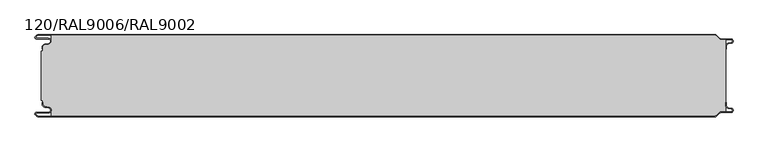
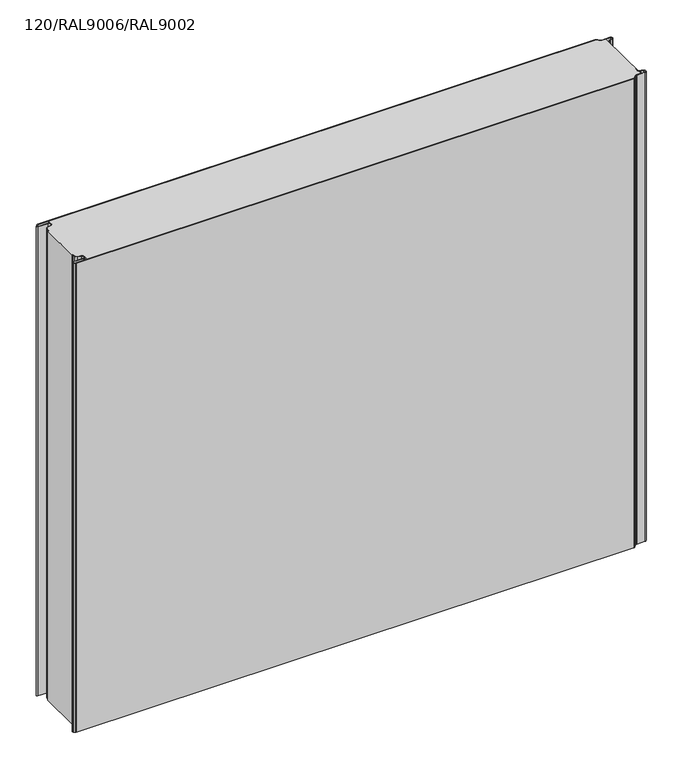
"""IFC4 building model written with IfcOpenShell, lengths in millimetres: plate geometry, TR_C_V_FTV_Panel : 120/RAL9006/RAL9002."""

from ifc_helpers import new_model, si_unit, point, frame_2d, origin, origin_with_axes, place, context, project, spatial, polyline, circle_curve, trimmed, segment, composite_curve, outline, extrude, source, transform, mapped, element, save


def plate_120_ral9006_ral9002_37b8b317(model_context):
    return source(origin(), model_context, "Body", "SweptSolid", [
        extrude(outline(composite_curve([segment(polyline([(499.8000012, -103.1130328), (499.8000012, -99.0), (500.6000012, -99.0), (500.6000012, -103.1130328)]), True, "CONTINUOUS"), segment(trimmed(circle_curve(frame_2d((504.3500012, -103.1130328)), 3.75), [point((500.6000012, -103.1130328))], [point((503.6988205, -106.8060618))], True, "CARTESIAN"), True, "CONTINUOUS"), segment(polyline([(503.6988205, -106.8060618), (507.9143577, -107.5493748)]), True, "CONTINUOUS"), segment(trimmed(circle_curve(frame_2d((507.3500012, -110.75)), 3.25), [point((507.9143577, -107.5493748))], [point((507.3500012, -114.0))], False, "CARTESIAN"), True, "CONTINUOUS"), segment(polyline([(507.3500012, -114.0), (492.6000012, -114.0)]), True, "CONTINUOUS"), segment(trimmed(circle_curve(frame_2d((492.6000012, -116.5)), 2.5), [point((492.6000012, -114.0))], [point((490.8322342, -114.732233))], True, "CARTESIAN"), True, "CONTINUOUS"), segment(polyline([(490.8322342, -114.732233), (486.4431469, -119.1213203)]), True, "CONTINUOUS"), segment(trimmed(circle_curve(frame_2d((484.3218266, -117.0)), 3.0), [point((486.4431469, -119.1213203))], [point((484.3218266, -120.0))], False, "CARTESIAN"), True, "CONTINUOUS"), segment(polyline([(484.3218266, -120.0), (-505.018628, -120.0)]), True, "CONTINUOUS"), segment(trimmed(circle_curve(frame_2d((-505.018628, -117.25)), 2.75), [point((-505.018628, -120.0))], [point((-506.9631716, -119.1945436))], False, "CARTESIAN"), True, "CONTINUOUS"), segment(polyline([(-506.9631716, -119.1945436), (-508.8288571, -117.3288582)]), True, "CONTINUOUS"), segment(trimmed(circle_curve(frame_2d((-507.4499988, -115.95)), 1.95), [point((-508.8288571, -117.3288582))], [point((-507.4499988, -114.0))], False, "CARTESIAN"), True, "CONTINUOUS"), segment(polyline([(-507.4499988, -114.0), (-489.8499988, -114.0)]), True, "CONTINUOUS"), segment(trimmed(circle_curve(frame_2d((-489.8499988, -110.55)), 3.45), [point((-489.8499988, -114.0))], [point((-489.2509126, -107.1524133))], True, "CARTESIAN"), True, "CONTINUOUS"), segment(polyline([(-489.2509126, -107.1524133), (-495.3011795, -106.085588)]), True, "CONTINUOUS"), segment(trimmed(circle_curve(frame_2d((-494.6499988, -102.3925589)), 3.75), [point((-495.3011795, -106.085588))], [point((-498.3999988, -102.3925589))], False, "CARTESIAN"), True, "CONTINUOUS"), segment(polyline([(-498.3999988, -102.3925589), (-498.3999988, -99.0), (-497.5999988, -99.0), (-497.5999988, -102.3925589)]), True, "CONTINUOUS"), segment(trimmed(circle_curve(frame_2d((-494.6499988, -102.3925589)), 2.95), [point((-497.5999988, -102.3925589))], [point((-495.162261, -105.2977418))], True, "CARTESIAN"), True, "CONTINUOUS"), segment(polyline([(-495.162261, -105.2977418), (-489.1119941, -106.364567)]), True, "CONTINUOUS"), segment(trimmed(circle_curve(frame_2d((-489.8499988, -110.55)), 4.25), [point((-489.1119941, -106.364567))], [point((-489.8499988, -114.8))], False, "CARTESIAN"), True, "CONTINUOUS"), segment(polyline([(-489.8499988, -114.8), (-507.4499988, -114.8)]), True, "CONTINUOUS"), segment(trimmed(circle_curve(frame_2d((-507.4499988, -115.95)), 1.15), [point((-507.4499988, -114.8))], [point((-508.2631716, -116.7631728))], True, "CARTESIAN"), True, "CONTINUOUS"), segment(polyline([(-508.2631716, -116.7631728), (-506.3974862, -118.6288582)]), True, "CONTINUOUS"), segment(trimmed(circle_curve(frame_2d((-505.018628, -117.25)), 1.95), [point((-506.3974862, -118.6288582))], [point((-505.018628, -119.2))], True, "CARTESIAN"), True, "CONTINUOUS"), segment(polyline([(-505.018628, -119.2), (484.3218266, -119.2)]), True, "CONTINUOUS"), segment(trimmed(circle_curve(frame_2d((484.3218266, -117.0)), 2.2), [point((484.3218266, -119.2))], [point((485.8774615, -118.5556349))], True, "CARTESIAN"), True, "CONTINUOUS"), segment(polyline([(485.8774615, -118.5556349), (490.2665488, -114.1665476)]), True, "CONTINUOUS"), segment(trimmed(circle_curve(frame_2d((492.6000012, -116.5)), 3.3), [point((490.2665488, -114.1665476))], [point((492.6000012, -113.2))], False, "CARTESIAN"), True, "CONTINUOUS"), segment(polyline([(492.6000012, -113.2), (507.3500012, -113.2)]), True, "CONTINUOUS"), segment(trimmed(circle_curve(frame_2d((507.3500012, -110.75)), 2.45), [point((507.3500012, -113.2))], [point((507.7754392, -108.337221))], True, "CARTESIAN"), True, "CONTINUOUS"), segment(polyline([(507.7754392, -108.337221), (503.559902, -107.5939081)]), True, "CONTINUOUS"), segment(trimmed(circle_curve(frame_2d((504.3500012, -103.1130328)), 4.55), [point((503.559902, -107.5939081))], [point((499.8000012, -103.1130328))], False, "CARTESIAN"), True, "CONTINUOUS")], self_intersect=False)), origin_with_axes(), (0.0, 0.0, 1.0), 880.0),
        extrude(outline(composite_curve([segment(polyline([(-499.9999988, -23.7), (-497.5999988, -23.7), (-497.5999988, -17.6074411)]), True, "CONTINUOUS"), segment(trimmed(circle_curve(frame_2d((-494.6499988, -17.6074411)), 2.95), [point((-497.5999988, -17.6074411))], [point((-495.162261, -14.7022582))], False, "CARTESIAN"), True, "CONTINUOUS"), segment(polyline([(-495.162261, -14.7022582), (-489.1119941, -13.635433)]), True, "CONTINUOUS"), segment(trimmed(circle_curve(frame_2d((-489.8499988, -9.45)), 4.25), [point((-489.1119941, -13.635433))], [point((-485.5999988, -9.45))], True, "CARTESIAN"), True, "CONTINUOUS"), segment(polyline([(-485.5999988, -9.45), (-485.5999988, -0.8), (484.3218266, -0.8)]), True, "CONTINUOUS"), segment(trimmed(circle_curve(frame_2d((484.3218266, -3.0)), 2.2), [point((484.3218266, -0.8))], [point((485.8774615, -1.4443651))], False, "CARTESIAN"), True, "CONTINUOUS"), segment(polyline([(485.8774615, -1.4443651), (490.2665488, -5.8334524)]), True, "CONTINUOUS"), segment(trimmed(circle_curve(frame_2d((492.6000012, -3.5)), 3.3), [point((490.2665488, -5.8334524))], [point((492.6000012, -6.8))], True, "CARTESIAN"), True, "CONTINUOUS"), segment(polyline([(492.6000012, -6.8), (500.0, -6.8), (500.0, -113.2), (492.6000012, -113.2)]), True, "CONTINUOUS"), segment(trimmed(circle_curve(frame_2d((492.6000012, -116.5)), 3.3), [point((492.6000012, -113.2))], [point((490.2665488, -114.1665476))], True, "CARTESIAN"), True, "CONTINUOUS"), segment(polyline([(490.2665488, -114.1665476), (485.8774615, -118.5556349)]), True, "CONTINUOUS"), segment(trimmed(circle_curve(frame_2d((484.3218266, -117.0)), 2.2), [point((485.8774615, -118.5556349))], [point((484.3218266, -119.2))], False, "CARTESIAN"), True, "CONTINUOUS"), segment(polyline([(484.3218266, -119.2), (-485.5999988, -119.2), (-485.5999988, -110.55)]), True, "CONTINUOUS"), segment(trimmed(circle_curve(frame_2d((-489.8499988, -110.55)), 4.25), [point((-485.5999988, -110.55))], [point((-489.1119941, -106.364567))], True, "CARTESIAN"), True, "CONTINUOUS"), segment(polyline([(-489.1119941, -106.364567), (-495.162261, -105.2977418)]), True, "CONTINUOUS"), segment(trimmed(circle_curve(frame_2d((-494.6499988, -102.3925589)), 2.95), [point((-495.162261, -105.2977418))], [point((-497.5999988, -102.3925589))], False, "CARTESIAN"), True, "CONTINUOUS"), segment(polyline([(-497.5999988, -102.3925589), (-497.5999988, -96.3), (-499.9999988, -96.3), (-499.9999988, -23.7)]), True, "CONTINUOUS")], self_intersect=False)), origin_with_axes(), (0.0, 0.0, 1.0), 880.0),
        extrude(outline(composite_curve([segment(trimmed(circle_curve(frame_2d((504.3500012, -16.8869672)), 4.55), [point((499.8000012, -16.8869672))], [point((503.559902, -12.4060919))], False, "CARTESIAN"), True, "CONTINUOUS"), segment(polyline([(503.559902, -12.4060919), (507.7754392, -11.662779)]), True, "CONTINUOUS"), segment(trimmed(circle_curve(frame_2d((507.3500012, -9.25)), 2.45), [point((507.7754392, -11.662779))], [point((507.3500012, -6.8))], True, "CARTESIAN"), True, "CONTINUOUS"), segment(polyline([(507.3500012, -6.8), (492.6000012, -6.8)]), True, "CONTINUOUS"), segment(trimmed(circle_curve(frame_2d((492.6000012, -3.5)), 3.3), [point((492.6000012, -6.8))], [point((490.2665488, -5.8334524))], False, "CARTESIAN"), True, "CONTINUOUS"), segment(polyline([(490.2665488, -5.8334524), (485.8774615, -1.4443651)]), True, "CONTINUOUS"), segment(trimmed(circle_curve(frame_2d((484.3218266, -3.0)), 2.2), [point((485.8774615, -1.4443651))], [point((484.3218266, -0.8))], True, "CARTESIAN"), True, "CONTINUOUS"), segment(polyline([(484.3218266, -0.8), (-505.018628, -0.8)]), True, "CONTINUOUS"), segment(trimmed(circle_curve(frame_2d((-505.018628, -2.75)), 1.95), [point((-505.018628, -0.8))], [point((-506.3974862, -1.3711418))], True, "CARTESIAN"), True, "CONTINUOUS"), segment(polyline([(-506.3974862, -1.3711418), (-508.2631716, -3.2368272)]), True, "CONTINUOUS"), segment(trimmed(circle_curve(frame_2d((-507.4499988, -4.05)), 1.15), [point((-508.2631716, -3.2368272))], [point((-507.4499988, -5.2))], True, "CARTESIAN"), True, "CONTINUOUS"), segment(polyline([(-507.4499988, -5.2), (-489.8499988, -5.2)]), True, "CONTINUOUS"), segment(trimmed(circle_curve(frame_2d((-489.8499988, -9.45)), 4.25), [point((-489.8499988, -5.2))], [point((-489.1119941, -13.635433))], False, "CARTESIAN"), True, "CONTINUOUS"), segment(polyline([(-489.1119941, -13.635433), (-495.162261, -14.7022582)]), True, "CONTINUOUS"), segment(trimmed(circle_curve(frame_2d((-494.6499988, -17.6074411)), 2.95), [point((-495.162261, -14.7022582))], [point((-497.5999988, -17.6074411))], True, "CARTESIAN"), True, "CONTINUOUS"), segment(polyline([(-497.5999988, -17.6074411), (-497.5999988, -21.0), (-498.3999988, -21.0), (-498.3999988, -17.6074411)]), True, "CONTINUOUS"), segment(trimmed(circle_curve(frame_2d((-494.6499988, -17.6074411)), 3.75), [point((-498.3999988, -17.6074411))], [point((-495.3011795, -13.914412))], False, "CARTESIAN"), True, "CONTINUOUS"), segment(polyline([(-495.3011795, -13.914412), (-489.2509126, -12.8475867)]), True, "CONTINUOUS"), segment(trimmed(circle_curve(frame_2d((-489.8499988, -9.45)), 3.45), [point((-489.2509126, -12.8475867))], [point((-489.8499988, -6.0))], True, "CARTESIAN"), True, "CONTINUOUS"), segment(polyline([(-489.8499988, -6.0), (-507.4499988, -6.0)]), True, "CONTINUOUS"), segment(trimmed(circle_curve(frame_2d((-507.4499988, -4.05)), 1.95), [point((-507.4499988, -6.0))], [point((-508.8288571, -2.6711418))], False, "CARTESIAN"), True, "CONTINUOUS"), segment(polyline([(-508.8288571, -2.6711418), (-506.9631716, -0.8054564)]), True, "CONTINUOUS"), segment(trimmed(circle_curve(frame_2d((-505.018628, -2.75)), 2.75), [point((-506.9631716, -0.8054564))], [point((-505.018628, 0.0))], False, "CARTESIAN"), True, "CONTINUOUS"), segment(polyline([(-505.018628, 0.0), (484.3218266, 0.0)]), True, "CONTINUOUS"), segment(trimmed(circle_curve(frame_2d((484.3218266, -3.0)), 3.0), [point((484.3218266, 0.0))], [point((486.4431469, -0.8786797))], False, "CARTESIAN"), True, "CONTINUOUS"), segment(polyline([(486.4431469, -0.8786797), (490.8322342, -5.267767)]), True, "CONTINUOUS"), segment(trimmed(circle_curve(frame_2d((492.6000012, -3.5)), 2.5), [point((490.8322342, -5.267767))], [point((492.6000012, -6.0))], True, "CARTESIAN"), True, "CONTINUOUS"), segment(polyline([(492.6000012, -6.0), (507.3500012, -6.0)]), True, "CONTINUOUS"), segment(trimmed(circle_curve(frame_2d((507.3500012, -9.25)), 3.25), [point((507.3500012, -6.0))], [point((507.9143577, -12.4506252))], False, "CARTESIAN"), True, "CONTINUOUS"), segment(polyline([(507.9143577, -12.4506252), (503.6988205, -13.1939382)]), True, "CONTINUOUS"), segment(trimmed(circle_curve(frame_2d((504.3500012, -16.8869672)), 3.75), [point((503.6988205, -13.1939382))], [point((500.6000012, -16.8869672))], True, "CARTESIAN"), True, "CONTINUOUS"), segment(polyline([(500.6000012, -16.8869672), (500.6000012, -21.0), (499.8000012, -21.0), (499.8000012, -16.8869672)]), True, "CONTINUOUS")], self_intersect=False)), origin_with_axes(), (0.0, 0.0, 1.0), 880.0),
    ])


if __name__ == "__main__":
    model = new_model("IFC4")
    model_context = context("Model", 3, world=origin())
    ifc_project = project(units=[si_unit("LENGTHUNIT", "METRE", prefix="MILLI")], contexts=[model_context])
    site = spatial("IfcSite", under=ifc_project)
    building = spatial("IfcBuilding", under=site)
    placement = place(None, origin())
    plate_120_ral9006_ral9002_shape = plate_120_ral9006_ral9002_37b8b317(model_context)
    element("IfcPlate", 1, ObjectType="TR_C_V_FTV_Panel : 120/RAL9006/RAL9002", at=placement, inside=building, context=model_context, shape_type="MappedRepresentation", body=[
        mapped(plate_120_ral9006_ral9002_shape, transform((0.0, 0.0, 0.0), x_axis=(1.0, 0.0, 0.0), y_axis=(0.0, 1.0, 0.0), z_axis=(0.0, 0.0, 1.0))),
    ])
    save(model, "model.ifc")
